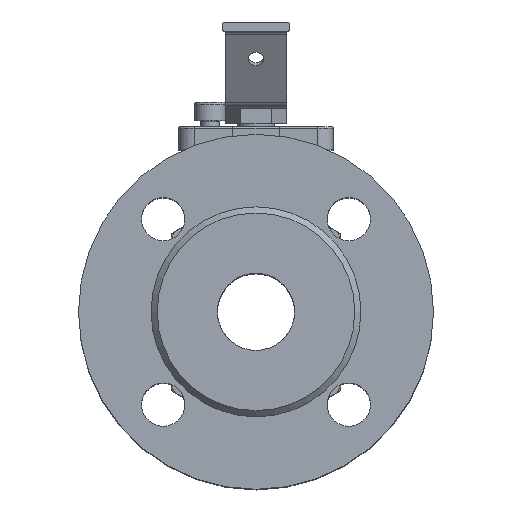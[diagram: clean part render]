
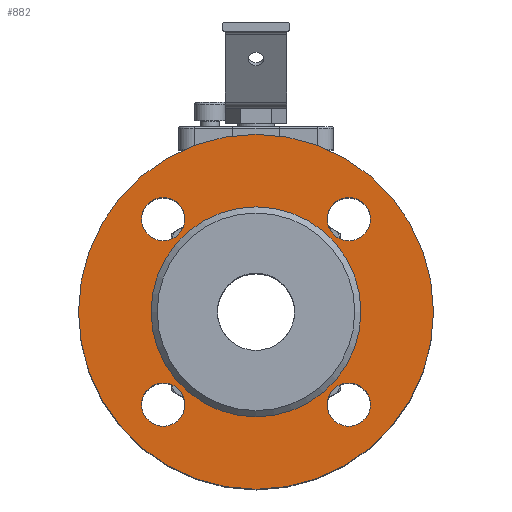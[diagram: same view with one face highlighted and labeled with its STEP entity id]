
A CAD part, top view. The second image highlights one B-rep face of the part: STEP entity #882.
In plain terms, the highlighted planar face has unit normal (0, 0, 1).
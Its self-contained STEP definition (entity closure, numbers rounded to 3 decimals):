
#882=ADVANCED_FACE('',(#4969,#4971,#4973,#4975,#4977,#4979),#4981,.T.);
#4969=FACE_BOUND('',#4970,.T.);
#4970=EDGE_LOOP('',(#11245));
#4971=FACE_BOUND('',#4972,.T.);
#4972=EDGE_LOOP('',(#11246));
#4973=FACE_BOUND('',#4974,.T.);
#4974=EDGE_LOOP('',(#11247));
#4975=FACE_BOUND('',#4976,.T.);
#4976=EDGE_LOOP('',(#11248));
#4977=FACE_BOUND('',#4978,.T.);
#4978=EDGE_LOOP('',(#11249));
#4979=FACE_BOUND('',#4980,.T.);
#4980=EDGE_LOOP('',(#11250));
#4981=PLANE('',#4982);
#4982=AXIS2_PLACEMENT_3D('',#4983,#4984,#4985);
#4983=CARTESIAN_POINT('',(0.,0.,44.809));
#4984=DIRECTION('',(0.,0.,1.));
#4985=DIRECTION('',(0.,1.,0.));
#11245=ORIENTED_EDGE('',*,*,#14848,.F.);
#11246=ORIENTED_EDGE('',*,*,#14849,.T.);
#11247=ORIENTED_EDGE('',*,*,#14850,.T.);
#11248=ORIENTED_EDGE('',*,*,#14851,.T.);
#11249=ORIENTED_EDGE('',*,*,#14818,.T.);
#11250=ORIENTED_EDGE('',*,*,#14852,.T.);
#14818=EDGE_CURVE('',#16851,#16851,#16852,.T.);
#14848=EDGE_CURVE('',#16900,#16900,#16901,.T.);
#14849=EDGE_CURVE('',#16902,#16902,#16903,.F.);
#14850=EDGE_CURVE('',#16904,#16904,#16905,.F.);
#14851=EDGE_CURVE('',#16906,#16906,#16907,.F.);
#14852=EDGE_CURVE('',#16908,#16908,#16909,.F.);
#16851=VERTEX_POINT('',#19893);
#16852=CIRCLE('',#19894,34.);
#16900=VERTEX_POINT('',#20015);
#16901=CIRCLE('',#20016,57.5);
#16902=VERTEX_POINT('',#20020);
#16903=CIRCLE('',#20021,7.);
#16904=VERTEX_POINT('',#20025);
#16905=CIRCLE('',#20026,7.);
#16906=VERTEX_POINT('',#20030);
#16907=CIRCLE('',#20031,7.);
#16908=VERTEX_POINT('',#20035);
#16909=CIRCLE('',#20036,7.);
#19893=CARTESIAN_POINT('',(0.,34.,44.809));
#19894=AXIS2_PLACEMENT_3D('',#19895,#19896,#19897);
#19895=CARTESIAN_POINT('',(0.,0.,44.809));
#19896=DIRECTION('',(0.,0.,-1.));
#19897=DIRECTION('',(0.,1.,0.));
#20015=CARTESIAN_POINT('',(0.,57.5,44.809));
#20016=AXIS2_PLACEMENT_3D('',#20017,#20018,#20019);
#20017=CARTESIAN_POINT('',(0.,0.,44.809));
#20018=DIRECTION('',(0.,0.,-1.));
#20019=DIRECTION('',(0.,1.,0.));
#20020=CARTESIAN_POINT('',(30.052,-37.052,44.809));
#20021=AXIS2_PLACEMENT_3D('',#20022,#20023,#20024);
#20022=CARTESIAN_POINT('',(30.052,-30.052,44.809));
#20023=DIRECTION('',(0.,0.,1.));
#20024=DIRECTION('',(0.,-1.,0.));
#20025=CARTESIAN_POINT('',(-37.052,-30.052,44.809));
#20026=AXIS2_PLACEMENT_3D('',#20027,#20028,#20029);
#20027=CARTESIAN_POINT('',(-30.052,-30.052,44.809));
#20028=DIRECTION('',(0.,0.,1.));
#20029=DIRECTION('',(-1.,0.,0.));
#20030=CARTESIAN_POINT('',(-30.052,37.052,44.809));
#20031=AXIS2_PLACEMENT_3D('',#20032,#20033,#20034);
#20032=CARTESIAN_POINT('',(-30.052,30.052,44.809));
#20033=DIRECTION('',(0.,0.,1.));
#20034=DIRECTION('',(0.,1.,0.));
#20035=CARTESIAN_POINT('',(37.052,30.052,44.809));
#20036=AXIS2_PLACEMENT_3D('',#20037,#20038,#20039);
#20037=CARTESIAN_POINT('',(30.052,30.052,44.809));
#20038=DIRECTION('',(0.,0.,1.));
#20039=DIRECTION('',(1.,0.,0.));
